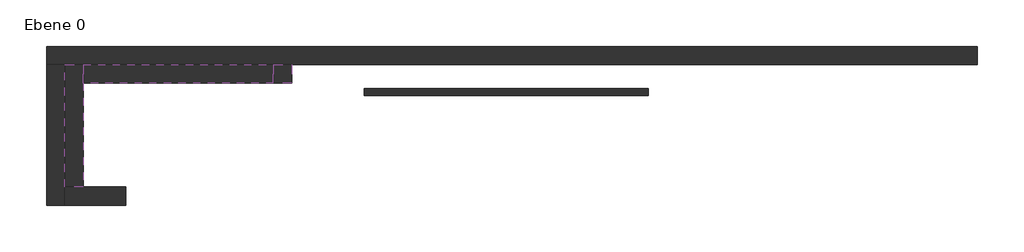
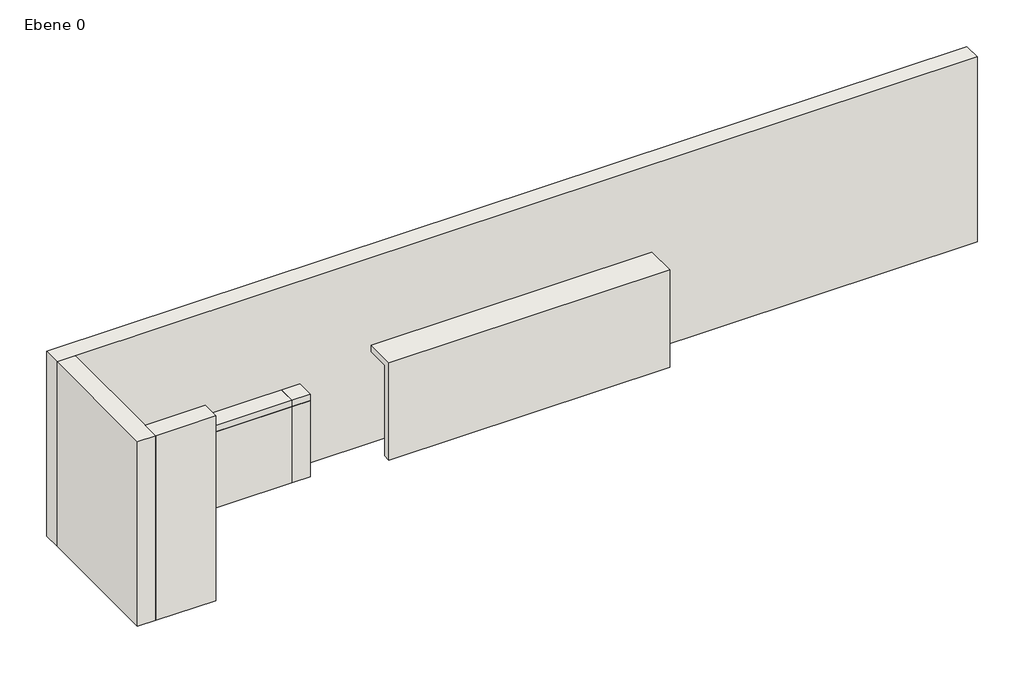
# One storey, incomplete: 10 walls.
"""IFC4 building model written with IfcOpenShell, lengths in millimetres."""

from ifc_helpers import new_model, si_unit, frame, origin, origin_with_axes, place, context, project, spatial, polyline, outline, extrude, faceted_brep, transform, mapped, element, save
from components import wall_73ff82e3

model = new_model("IFC4")

# Units and contexts
model_context = context("Model", 3, world=origin())
ifc_project = project(units=[si_unit("LENGTHUNIT", "METRE", prefix="MILLI")], contexts=[model_context])

# Site, building, storey
site = spatial("IfcSite", under=ifc_project)
building = spatial("IfcBuilding", under=site)
storey = spatial("IfcBuildingStorey", under=building, Name="Ebene 0", Elevation=0.0)

# Walls
placement = place(None, origin())
wall_shape = wall_73ff82e3(model_context)
element("IfcWall", 1, ObjectType="Vorbau : Vorbau", at=placement, inside=storey, context=model_context, shape_type="MappedRepresentation", body=[
    mapped(wall_shape, transform((0.0, 0.0, 0.0), x_axis=(1.0, 0.0, 0.0), y_axis=(0.0, 1.0, 0.0), z_axis=(0.0, 0.0, 1.0))),
])
element("IfcWall", 2, ObjectType="MW 10+270", at=placement, inside=storey, context=model_context, shape_type="SweptSolid", body=[
    extrude(outline(polyline([(-10018.3526863, 5155.1665401), (-12904.2196105, 5155.1665401), (-12904.2196105, 5435.1665401), (-10018.3526863, 5435.1665401), (-10018.3526863, 5155.1665401)])), origin_with_axes(), (0.0, 0.0, 1.0), 1236.5968299),
])
element("IfcWall", 3, ObjectType="MW 10+270", at=placement, inside=storey, context=model_context, shape_type="Brep", body=[
    faceted_brep([(-12904.2196105, 3575.1665401, 0.0), (-12904.2196105, 5155.1665401, 0.0), (-12904.2196105, 5435.1665401, 0.0), (-12904.2196105, 5435.1665401, 1236.5968299), (-12904.2196105, 5155.1665401, 1236.5968299), (-12904.2196105, 3575.1665401, 1236.5968299), (-13184.2196105, 3575.1665401, 0.0), (-13184.2196105, 3575.1665401, 1236.5968299), (-13184.2196105, 5435.1665401, 1236.5968299), (-13184.2196105, 5435.1665401, 0.0)], [[[0, 1, 2, 3, 4, 5]], [[6, 7, 8, 9]], [[2, 1, 0, 6, 9]], [[5, 4, 3, 8, 7]], [[3, 2, 9, 8]], [[0, 5, 7, 6]]]),
])
element("IfcWall", 4, ObjectType="MW 10+270", at=placement, inside=storey, context=model_context, shape_type="SweptSolid", body=[
    extrude(outline(polyline([(-9738.3526863, 5435.1665401), (-9738.3526863, 5155.1665401), (-10018.3526863, 5155.1665401), (-10018.3526863, 5435.1665401), (-9738.3526863, 5435.1665401)])), origin_with_axes(), (0.0, 0.0, 1.0), 1236.5968299),
])
element("IfcWall", 5, ObjectType="MW 280", at=placement, inside=storey, context=model_context, shape_type="Brep", body=[
    faceted_brep([(-13464.2196105, 5435.1665401, 3000.0), (-13464.2196105, 5435.1665401, 0.0), (-13184.2196105, 5435.1665401, 0.0), (-12904.2196105, 5435.1665401, 0.0), (-10018.3526863, 5435.1665401, 0.0), (-9738.3526863, 5435.1665401, 0.0), (675.7803895, 5435.1665401, 0.0), (675.7803895, 5435.1665401, 3000.0), (-13184.2196105, 5435.1665401, 3000.0), (-13464.2196105, 5715.1665401, 0.0), (-13464.2196105, 5715.1665401, 3000.0), (675.7803895, 5715.1665401, 3000.0), (675.7803895, 5715.1665401, 0.0)], [[[0, 1, 2, 3, 4, 5, 6, 7, 8]], [[9, 10, 11, 12]], [[6, 5, 4, 3, 2, 1, 9, 12]], [[7, 6, 12, 11]], [[0, 8, 7, 11, 10]], [[0, 10, 9, 1]]]),
])
element("IfcWall", 6, ObjectType="MW 280", at=placement, inside=storey, context=model_context, shape_type="SweptSolid", body=[
    extrude(outline(polyline([(-10018.3526863, 5155.1665401), (-12904.2196105, 5155.1665401), (-12904.2196105, 5435.1665401), (-10018.3526863, 5435.1665401), (-10018.3526863, 5155.1665401)])), frame((0.0, 0.0, 1236.5968299), z_axis=(0.0, 0.0, 1.0), x_axis=(1.0, 0.0, 0.0)), (0.0, 0.0, 1.0), 100.0),
])
element("IfcWall", 7, ObjectType="MW 280", at=placement, inside=storey, context=model_context, shape_type="Brep", body=[
    faceted_brep([(-13464.2196105, 5435.1665401, 0.0), (-13464.2196105, 3295.1665401, 0.0), (-13464.2196105, 3295.1665401, 3000.0), (-13464.2196105, 5435.1665401, 3000.0), (-13184.2196105, 5435.1665401, 0.0), (-13184.2196105, 5435.1665401, 3000.0), (-13184.2196105, 3575.1665401, 3000.0), (-13184.2196105, 3295.1665401, 3000.0), (-13184.2196105, 3295.1665401, 0.0), (-13184.2196105, 3575.1665401, 0.0)], [[[0, 1, 2, 3]], [[4, 5, 6, 7, 8, 9]], [[1, 0, 4, 9, 8]], [[3, 2, 7, 6, 5]], [[0, 3, 5, 4]], [[2, 1, 8, 7]]]),
])
element("IfcWall", 8, ObjectType="MW 280", at=placement, inside=storey, context=model_context, shape_type="Brep", body=[
    faceted_brep([(-13184.2196105, 3295.1665401, 3000.0), (-13184.2196105, 3295.1665401, 0.0), (-12264.2196105, 3295.1665401, 0.0), (-12264.2196105, 3295.1665401, 3000.0), (-13184.2196105, 3575.1665401, 0.0), (-13184.2196105, 3575.1665401, 1236.5968299), (-13184.2196105, 3575.1665401, 1336.5968299), (-13184.2196105, 3575.1665401, 3000.0), (-12264.2196105, 3575.1665401, 3000.0), (-12264.2196105, 3575.1665401, 0.0), (-12904.2196105, 3575.1665401, 0.0)], [[[0, 1, 2, 3]], [[4, 5, 6, 7, 8, 9, 10]], [[2, 1, 4, 10, 9]], [[3, 2, 9, 8]], [[0, 3, 8, 7]], [[0, 7, 6, 5, 4, 1]]]),
])
element("IfcWall", 9, ObjectType="MW 280", at=placement, inside=storey, context=model_context, shape_type="Brep", body=[
    faceted_brep([(-12904.2196105, 3575.1665401, 1236.5968299), (-12904.2196105, 5155.1665401, 1236.5968299), (-12904.2196105, 5435.1665401, 1236.5968299), (-12904.2196105, 5435.1665401, 1336.5968299), (-12904.2196105, 5155.1665401, 1336.5968299), (-12904.2196105, 3575.1665401, 1336.5968299), (-13184.2196105, 3575.1665401, 1236.5968299), (-13184.2196105, 3575.1665401, 1336.5968299), (-13184.2196105, 5435.1665401, 1336.5968299), (-13184.2196105, 5435.1665401, 1236.5968299)], [[[0, 1, 2, 3, 4, 5]], [[6, 7, 8, 9]], [[2, 1, 0, 6, 9]], [[5, 4, 3, 8, 7]], [[3, 2, 9, 8]], [[0, 5, 7, 6]]]),
])
element("IfcWall", 10, ObjectType="MW 280", at=placement, inside=storey, context=model_context, shape_type="SweptSolid", body=[
    extrude(outline(polyline([(-9738.3526863, 5435.1665401), (-9738.3526863, 5155.1665401), (-10018.3526863, 5155.1665401), (-10018.3526863, 5435.1665401), (-9738.3526863, 5435.1665401)])), frame((0.0, 0.0, 1236.5968299), z_axis=(0.0, 0.0, 1.0), x_axis=(1.0, 0.0, 0.0)), (0.0, 0.0, 1.0), 100.0),
])

save(model, "model.ifc")
